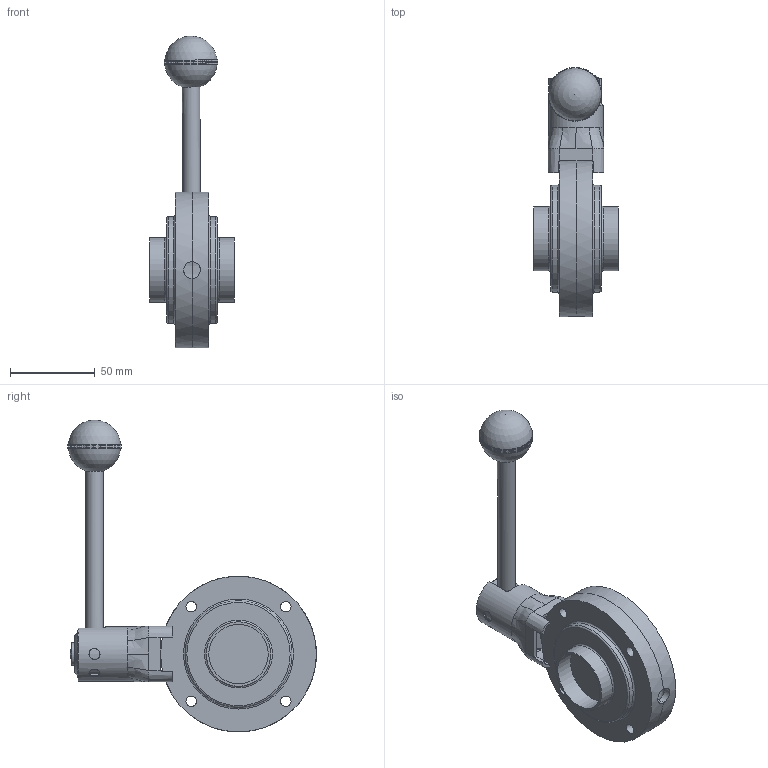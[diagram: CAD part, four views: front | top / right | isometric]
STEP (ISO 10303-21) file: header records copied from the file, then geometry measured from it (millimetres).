
FILE_DESCRIPTION(/* description */ ('VVF VALV.FARF.DN38.1 S/S EPDM 316 LEVA INOX 3POS.'),/* implementation_level */ '2;1');
FILE_NAME(/* name */ 'C:\_DED_PWS\MARZ-M\DB\B\EBA\BEBAAL112BEBV-00^SAGOMA.step',/* time_stamp */ '2023-05-16T11:32:49+02:00',/* author */ (''),/* organization */ (''),/* preprocessor_version */ 'ST-DEVELOPER v18.1',/* originating_system */ 'Autodesk Inventor 2022',/* authorisation */ '');
FILE_SCHEMA (('CONFIG_CONTROL_DESIGN'));
Length unit declared in the file: millimetre
Products named in the file (3): BEBAAL112BEBV; TNU430065AAA; TWDBB0407
Assembly tree (3 placements, depth 2):
  BEBAAL112BEBV
    TNU430065AAA
    TWDBB0407  x2
Bounding box: 50 x 146.94 x 184.18 mm (x, y, z)
Volume: 209028 mm3; surface area: 66882.6 mm2
Topology: 5 solids, 6 shells, 543 faces, 1319 edges, 869 vertices
Faces by surface type: plane 351, torus 85, cylinder 58, bspline 38, cone 7, sphere 4
Full cylindrical faces by diameter (mm): 6 x2, 6.2 x8, 6.5 x3, 9 x3, 9.3 x1, 10 x1, 10.4 x1, 10.5 x1, 11 x1, 11.1 x1, 11.4 x2, 13.4 x1, 15 x1, 15.2 x1, 27.8 x1, 28.4 x1, 32.2 x1, 35.1 x2, 38.1 x2, 63 x2, 92 x2
Entity records: 26304 total; most frequent: CARTESIAN_POINT 13508, DIRECTION 2564, ORIENTED_EDGE 2542, EDGE_CURVE 1271, AXIS2_PLACEMENT_3D 1067, VERTEX_POINT 839, EDGE_LOOP 624, CIRCLE 576
